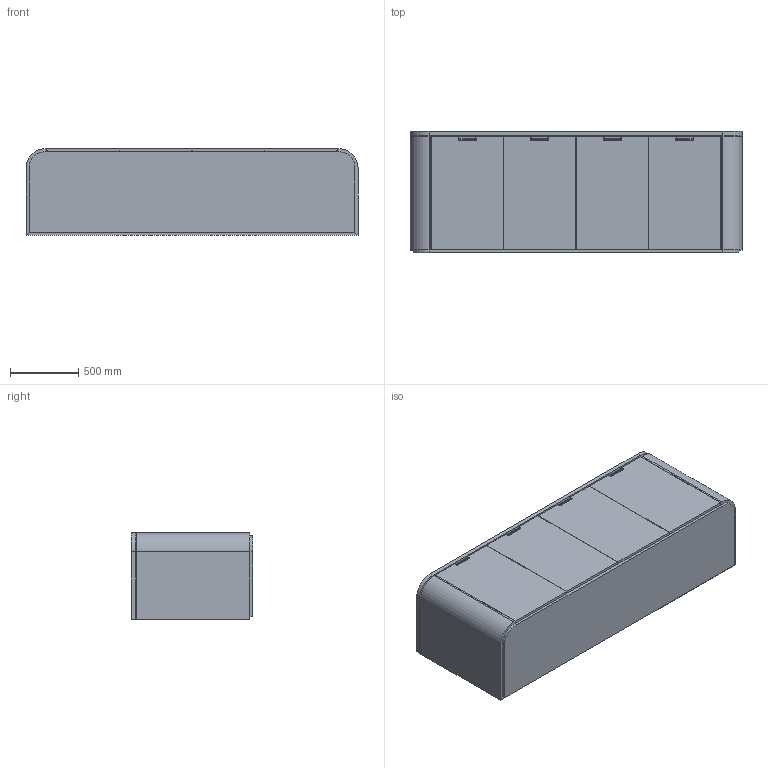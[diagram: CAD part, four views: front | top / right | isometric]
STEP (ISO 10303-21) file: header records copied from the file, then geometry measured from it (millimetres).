
FILE_DESCRIPTION(/* description */ ('','CAx-IF Rec.Pracs.---Representation and Presentation of Product Manufacturing Information (PMI)---4.0---2014-10-13'),/* implementation_level */ '2;1');
FILE_NAME(/* name */ 'BASYS^CS2.stp',/* time_stamp */ '2024-12-05T18:10:21-05:00',/* author */ ('mbowman'),/* organization */ (''),/* preprocessor_version */ 'ST-DEVELOPER v19.2',/* originating_system */ 'Autodesk Inventor 2023',/* authorisation */ '');
FILE_SCHEMA (('AP242_MANAGED_MODEL_BASED_3D_ENGINEERING_MIM_LF { 1 0 10303 442 1 1 4 }'));
Length unit declared in the file: inch
Products named in the file (3): BASYS^CREDENZA 3_4 DOORS ROUND ENDS-SOLID ASSEMBLY; BASYS^CREDENZA 3_4 DOORS ROUND ENDS-PARTS SOLID; PULL 2518
Assembly tree (5 placements, depth 2):
  BASYS^CREDENZA 3_4 DOORS ROUND ENDS-SOLID ASSEMBLY
    BASYS^CREDENZA 3_4 DOORS ROUND ENDS-PARTS SOLID
    PULL 2518  x4
Bounding box: 2438.4 x 889 x 635.51 mm (x, y, z)
Volume: 256291412.3 mm3; surface area: 21685033.2 mm2
Topology: 15 solids, 15 shells, 200 faces, 507 edges, 337 vertices
Faces by surface type: plane 164, cylinder 36
Entity records: 4727 total; most frequent: CARTESIAN_POINT 1014, DIRECTION 673, ORIENTED_EDGE 618, EDGE_CURVE 309, LINE 273, VECTOR 273, STYLED_ITEM 207, VERTEX_POINT 205
